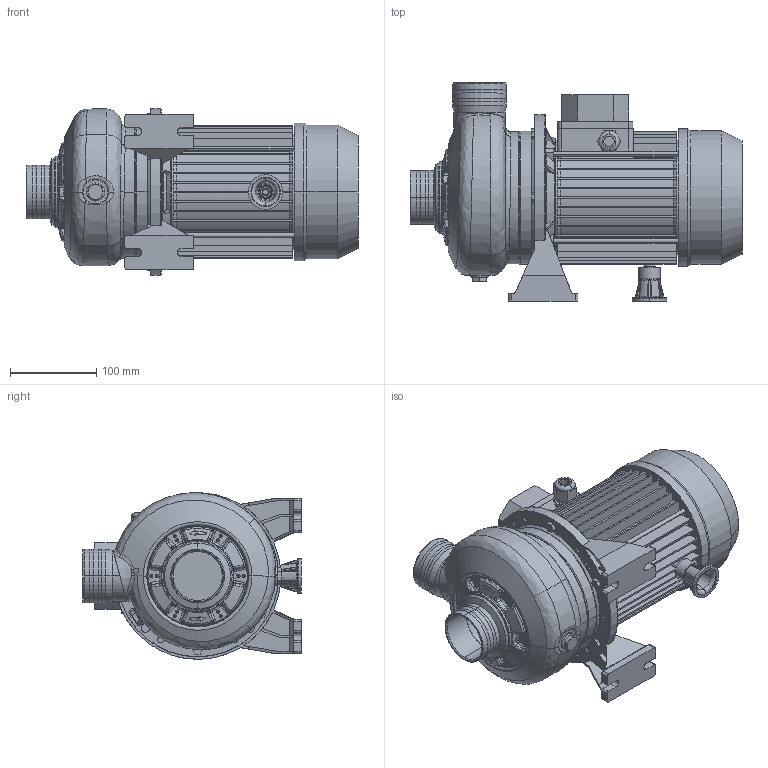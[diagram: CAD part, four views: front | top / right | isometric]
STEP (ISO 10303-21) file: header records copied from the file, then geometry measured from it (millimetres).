
FILE_DESCRIPTION((''),'2;1');
FILE_NAME('DWC_N_300_1_5_IE2_ASM','2011-06-27T',('Utente'),('"Ebara Pumps Europe +39.444.706811"'),'PRO/ENGINEER BY PARAMETRIC TECHNOLOGY CORPORATION, 2009360','PRO/ENGINEER BY PARAMETRIC TECHNOLOGY CORPORATION, 2009360','');
FILE_SCHEMA(('AUTOMOTIVE_DESIGN { 1 0 10303 214 1 1 1 1 }'));
Length unit declared in the file: millimetre
Products named in the file (12): MEC_80X120_IE2; 80596; 251420991; 10054; 76006; 40032; 10191; 62077; 20106_ASM; 72011; 72028; DWC_N_300_1_5_IE2_ASM
Assembly tree (13 placements, depth 3):
  DWC_N_300_1_5_IE2_ASM
    MEC_80X120_IE2
    80596
    20106_ASM
      251420991
      10054
      76006  x2
      40032  x2
      10191
      62077
    72011
    72028
Bounding box: 384.5 x 253 x 192.9 mm (x, y, z)
Volume: 2793036.4 mm3; surface area: 674296.3 mm2
Topology: 12 solids, 12 shells, 1657 faces, 3986 edges, 2402 vertices
Faces by surface type: plane 504, bspline 434, cylinder 284, torus 218, cone 171, sphere 42, extrusion 4
Entity records: 90026 total; most frequent: CARTESIAN_POINT 39615, ORIENTED_EDGE 7790, DIRECTION 6741, EDGE_CURVE 3895, PRESENTATION_STYLE_ASSIGNMENT 3848, STYLED_ITEM 3848, CURVE_STYLE 3839, AXIS2_PLACEMENT_3D 2798
